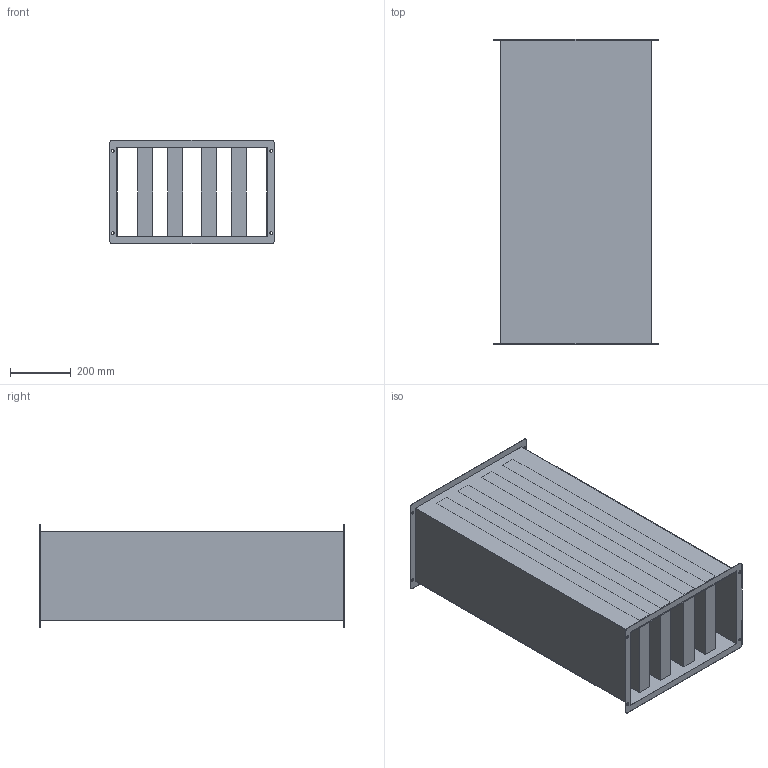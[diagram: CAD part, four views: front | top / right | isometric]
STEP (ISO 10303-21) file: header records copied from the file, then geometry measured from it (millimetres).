
FILE_DESCRIPTION(/* description */ (''),/* implementation_level */ '2;1');
FILE_NAME(/* name */ 'Z:\Output\KSD_50-25-08729-001.stp',/* time_stamp */ '2017-07-13T11:41:36+02:00',/* author */ ('Engineering1'),/* organization */ (''),/* preprocessor_version */ 'ST-DEVELOPER v16.5',/* originating_system */ 'Autodesk Inventor 2017',/* authorisation */ '');
FILE_SCHEMA (('AUTOMOTIVE_DESIGN { 1 0 10303 214 3 1 1 }'));
Length unit declared in the file: millimetre
Products named in the file (1): JVK-1
Bounding box: 540 x 1000 x 340 mm (x, y, z)
Volume: 56717694.8 mm3; surface area: 5221486.5 mm2
Topology: 1 solids, 1 shells, 52 faces, 148 edges, 100 vertices
Faces by surface type: plane 36, cylinder 16
Full cylindrical faces by diameter (mm): 9 x8
Entity records: 1702 total; most frequent: CARTESIAN_POINT 285, DIRECTION 274, ORIENTED_EDGE 272, EDGE_CURVE 136, LINE 104, VECTOR 104, VERTEX_POINT 96, EDGE_LOOP 88
